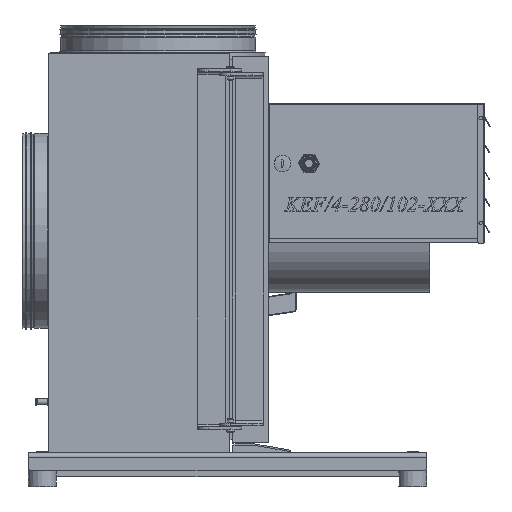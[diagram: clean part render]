
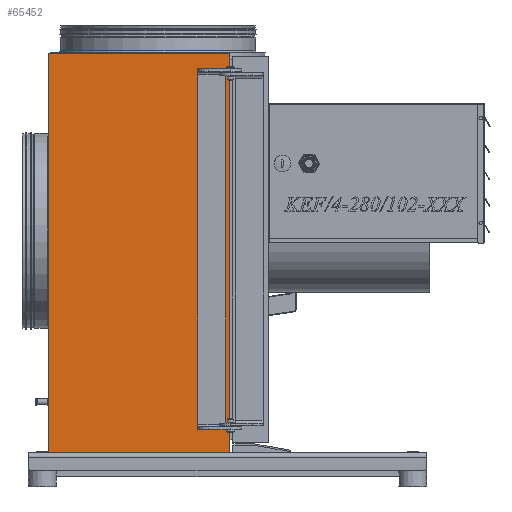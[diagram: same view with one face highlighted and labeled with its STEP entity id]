
A CAD part, left-side view. The second image highlights one B-rep face of the part: STEP entity #65452.
In plain terms, the highlighted planar face has unit normal (-1, 0, 0).
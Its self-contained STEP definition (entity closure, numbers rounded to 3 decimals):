
#2758=FACE_BOUND('',#11798,.T.);
#8041=FACE_OUTER_BOUND('',#11797,.T.);
#11797=EDGE_LOOP('',(#57298,#57299,#57300,#57301));
#11798=EDGE_LOOP('',(#57302,#57303,#57304,#57305));
#14951=LINE('',#101350,#21007);
#14964=LINE('',#101385,#21020);
#14976=LINE('',#101414,#21032);
#14987=LINE('',#101442,#21043);
#17841=LINE('',#116346,#23897);
#17848=LINE('',#116360,#23904);
#17851=LINE('',#116365,#23907);
#17853=LINE('',#116368,#23909);
#21007=VECTOR('',#76428,10.);
#21020=VECTOR('',#76461,10.);
#21032=VECTOR('',#76487,10.);
#21043=VECTOR('',#76514,10.);
#23897=VECTOR('',#84726,10.);
#23904=VECTOR('',#84741,10.);
#23907=VECTOR('',#84746,10.);
#23909=VECTOR('',#84750,10.);
#27073=VERTEX_POINT('',#101347);
#27074=VERTEX_POINT('',#101349);
#27085=VERTEX_POINT('',#101382);
#27086=VERTEX_POINT('',#101384);
#29943=VERTEX_POINT('',#116343);
#29944=VERTEX_POINT('',#116345);
#29947=VERTEX_POINT('',#116359);
#29948=VERTEX_POINT('',#116364);
#34684=EDGE_CURVE('',#27074,#27073,#14951,.T.);
#34701=EDGE_CURVE('',#27086,#27085,#14964,.T.);
#34716=EDGE_CURVE('',#27073,#27086,#14976,.T.);
#34731=EDGE_CURVE('',#27085,#27074,#14987,.T.);
#39054=EDGE_CURVE('',#29943,#29944,#17841,.T.);
#39061=EDGE_CURVE('',#29944,#29947,#17848,.T.);
#39064=EDGE_CURVE('',#29948,#29947,#17851,.T.);
#39066=EDGE_CURVE('',#29948,#29943,#17853,.T.);
#57298=ORIENTED_EDGE('',*,*,#39064,.T.);
#57299=ORIENTED_EDGE('',*,*,#39061,.F.);
#57300=ORIENTED_EDGE('',*,*,#39054,.F.);
#57301=ORIENTED_EDGE('',*,*,#39066,.F.);
#57302=ORIENTED_EDGE('',*,*,#34701,.T.);
#57303=ORIENTED_EDGE('',*,*,#34731,.T.);
#57304=ORIENTED_EDGE('',*,*,#34684,.T.);
#57305=ORIENTED_EDGE('',*,*,#34716,.T.);
#59494=PLANE('',#69881);
#65452=ADVANCED_FACE('',(#8041,#2758),#59494,.F.);
#69881=AXIS2_PLACEMENT_3D('',#116371,#84754,#84755);
#76428=DIRECTION('',(0.,-1.,0.));
#76461=DIRECTION('',(0.,1.,0.));
#76487=DIRECTION('',(0.,0.,-1.));
#76514=DIRECTION('',(0.,0.,1.));
#84726=DIRECTION('',(0.,-1.,0.));
#84741=DIRECTION('',(0.,0.,-1.));
#84746=DIRECTION('',(0.,-1.,0.));
#84750=DIRECTION('',(0.,0.,1.));
#84754=DIRECTION('center_axis',(1.,0.,0.));
#84755=DIRECTION('ref_axis',(0.,0.,
1.));
#101347=CARTESIAN_POINT('',(0.,7.26,541.));
#101349=CARTESIAN_POINT('',(0.,47.26,541.));
#101350=CARTESIAN_POINT('',(0.,27.26,541.));
#101382=CARTESIAN_POINT('',(0.,47.26,41.));
#101384=CARTESIAN_POINT('',(0.,7.26,41.));
#101385=CARTESIAN_POINT('',(0.,27.26,41.));
#101414=CARTESIAN_POINT('',(0.,7.26,49.25));
#101442=CARTESIAN_POINT('',(0.,47.26,48.25));
#116343=CARTESIAN_POINT('',(0.,261.,571.));
#116345=CARTESIAN_POINT('',(0.,1.,571.));
#116346=CARTESIAN_POINT('',(0.,262.5,571.));
#116359=CARTESIAN_POINT('',(0.,1.,0.));
#116360=CARTESIAN_POINT('',(0.,1.,428.25));
#116364=CARTESIAN_POINT('',(0.,261.,0.));
#116365=CARTESIAN_POINT('',(0.,262.5,0.));
#116368=CARTESIAN_POINT('',(0.,261.,0.));
#116371=CARTESIAN_POINT('Origin',(0.,27.26,
61.5));
